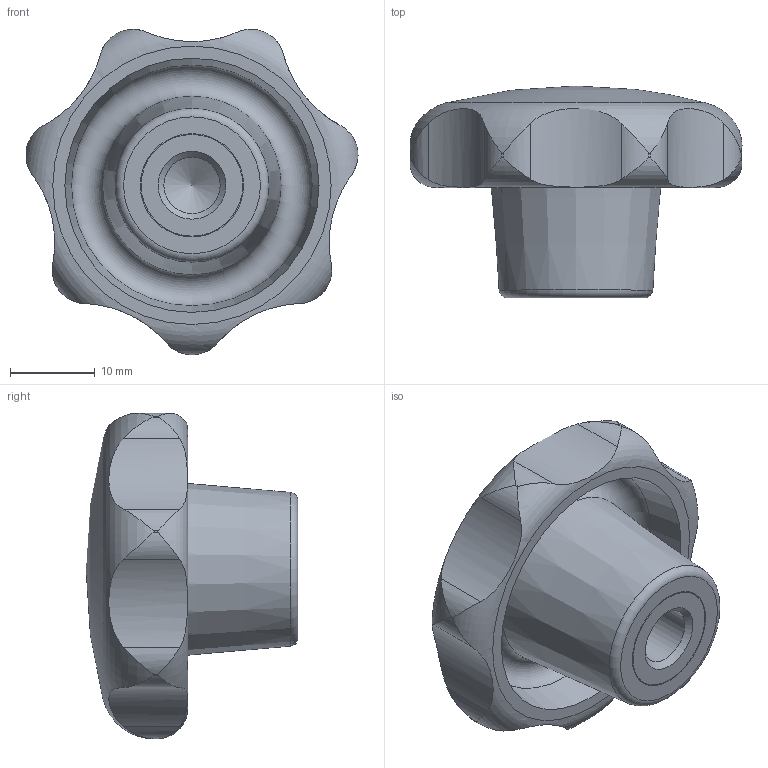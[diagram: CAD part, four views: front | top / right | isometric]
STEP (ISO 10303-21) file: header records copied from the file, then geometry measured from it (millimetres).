
FILE_DESCRIPTION( ( 'STEP AP203' ), '1' );
FILE_NAME( 'C:/Temp/Ganter_Step_05_03_2020/data/2_2/din_6336/din_6336_ku/din_6336_ku_k/Star knob DIN 6336-KU-40-M8-K-NI.stp', '2020-03-05T12:13:39', ( 'License CC BY-ND 4.0' ), ( 'CADENAS' ), ' ', 'PARTsolutions', ' ' );
FILE_SCHEMA( ( 'CONFIG_CONTROL_DESIGN' ) );
Length unit declared in the file: millimetre
Products named in the file (1): _Star knob DIN 6336-KU-40-M8-K-NI
Bounding box: 39.19 x 25 x 38.42 mm (x, y, z)
Volume: 12314.7 mm3; surface area: 4816.5 mm2
Topology: 1 solids, 1 shells, 44 faces, 115 edges, 75 vertices
Faces by surface type: cylinder 31, torus 4, plane 4, cone 4, sphere 1
Full cylindrical faces by diameter (mm): 6.647 x1, 12 x1, 12.2 x1
Entity records: 1952 total; most frequent: CARTESIAN_POINT 957, ORIENTED_EDGE 196, DIRECTION 174, EDGE_CURVE 98, AXIS2_PLACEMENT_3D 73, VERTEX_POINT 72, EDGE_LOOP 58, FACE_OUTER_BOUND 51
